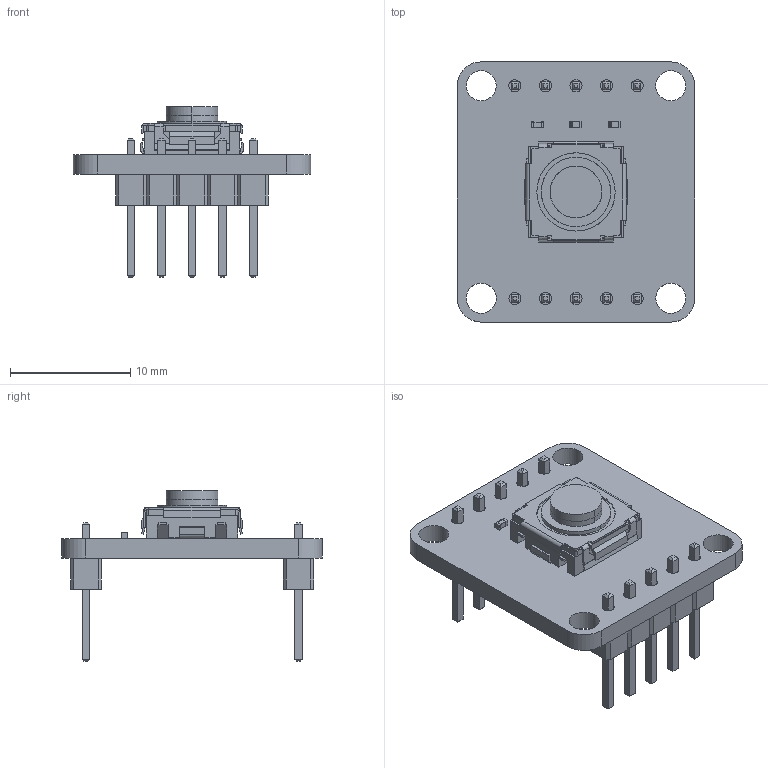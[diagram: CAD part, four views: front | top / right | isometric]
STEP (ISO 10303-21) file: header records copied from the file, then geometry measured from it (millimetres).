
FILE_DESCRIPTION(('KiCad electronic assembly'),'2;1');
FILE_NAME('STP_AXM0007.step','2024-11-12T16:09:24',('Pcbnew'),('Kicad'), 'Open CASCADE STEP processor 7.8','KiCad to STEP converter','Unknown' );
FILE_SCHEMA(('AUTOMOTIVE_DESIGN { 1 0 10303 214 1 1 1 1 }'));
Length unit declared in the file: millimetre
Products named in the file (10): STP_AXM0007 1; C_0402_1005Metric; SKSTAAE010; R_0402_1005Metric; PinHeader_1x05_P2.54mm_Vertical; PinHeader_1x05_P254mm_Vertical; PushButtonALPS_PCB
Assembly tree (11 placements, depth 3):
  STP_AXM0007 1
    C_0402_1005Metric
      C_0402_1005Metric
    SKSTAAE010
      SKSTAAE010
    R_0402_1005Metric  x2
      R_0402_1005Metric
    PinHeader_1x05_P2.54mm_Vertical  x2
      PinHeader_1x05_P254mm_Vertical
    PushButtonALPS_PCB
Bounding box: 19.74 x 21.64 x 14.19 mm (x, y, z)
Volume: 1008.3 mm3; surface area: 1834.1 mm2
Topology: 7 solids, 7 shells, 570 faces, 1499 edges, 960 vertices
Faces by surface type: plane 487, cylinder 83
Full cylindrical faces by diameter (mm): 1 x10, 2.5 x4
Entity records: 16524 total; most frequent: CARTESIAN_POINT 3118, ORIENTED_EDGE 2270, DIRECTION 1958, EDGE_CURVE 1135, LINE 942, VECTOR 942, VERTEX_POINT 732, AXIS2_PLACEMENT_3D 508
